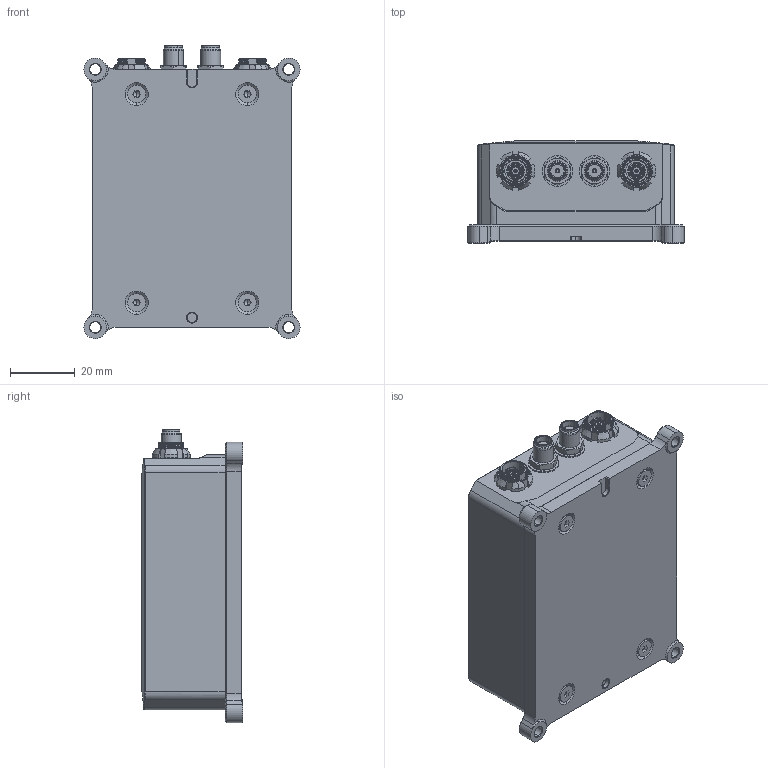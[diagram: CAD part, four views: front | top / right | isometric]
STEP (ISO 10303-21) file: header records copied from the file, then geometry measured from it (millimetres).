
FILE_DESCRIPTION (( 'STEP AP214' ), '1' );
FILE_NAME ('MC-IGNG-D.STEP', '2015-01-20T15:12:19', ( '' ), ( '' ), 'SwSTEP 2.0', 'SolidWorks 2013', '' );
FILE_SCHEMA (( 'AUTOMOTIVE_DESIGN' ));
Length unit declared in the file: millimetre
Products named in the file (1): MC-IGNG-D
Bounding box: 67 x 31.5 x 90.95 mm (x, y, z)
Volume: 148611.4 mm3; surface area: 38914.6 mm2
Topology: 20 solids, 22 shells, 2933 faces, 7765 edges, 5001 vertices
Faces by surface type: plane 1105, cylinder 887, bspline 555, cone 360, torus 26
Entity records: 146078 total; most frequent: CARTESIAN_POINT 45552, ORIENTED_EDGE 15422, DIRECTION 12466, EDGE_CURVE 7711, VERTEX_POINT 5001, AXIS2_PLACEMENT_3D 4571, LINE 3324, VECTOR 3324
